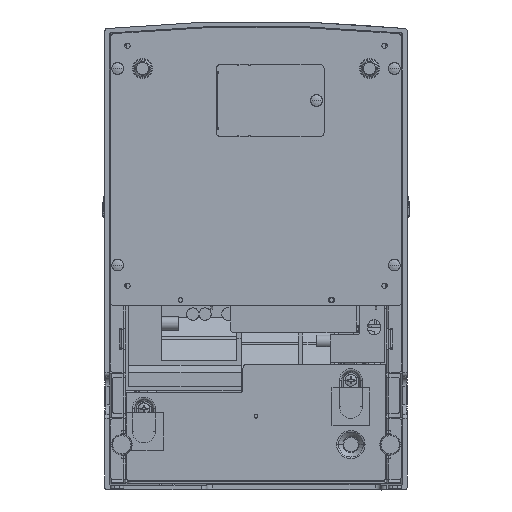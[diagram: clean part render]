
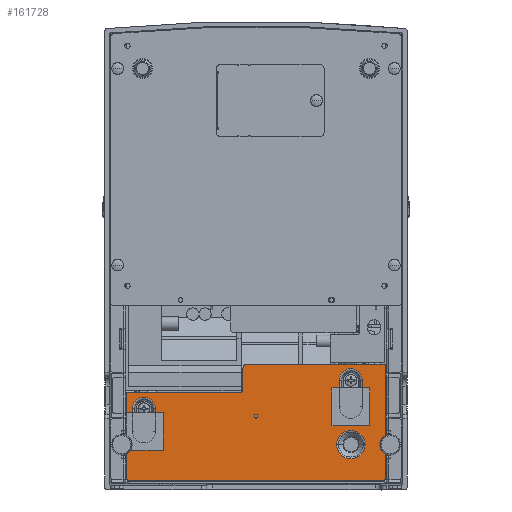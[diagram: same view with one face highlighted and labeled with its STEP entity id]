
A CAD part, front view. The second image highlights one B-rep face of the part: STEP entity #161728.
In plain terms, the highlighted planar face has unit normal (0, -1, 0).
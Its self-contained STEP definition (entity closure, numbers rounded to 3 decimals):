
#151433=CARTESIAN_POINT('',(0.,-56.4,-104.));
#151434=DIRECTION('',(0.,1.,0.));
#151435=DIRECTION('',(-1.,0.,0.));
#151436=AXIS2_PLACEMENT_3D('',#151433,#151434,#151435);
#151438=CARTESIAN_POINT('',(0.,-56.4,-104.));
#151439=DIRECTION('',(0.,1.,0.));
#151440=DIRECTION('',(1.,0.,0.));
#151441=AXIS2_PLACEMENT_3D('',#151438,#151439,#151440);
#151443=CARTESIAN_POINT('',(50.2,-56.4,-119.));
#151444=DIRECTION('',(0.,1.,0.));
#151445=DIRECTION('',(1.,0.,0.));
#151446=AXIS2_PLACEMENT_3D('',#151443,#151444,#151445);
#151448=CARTESIAN_POINT('',(50.2,-56.4,-119.));
#151449=DIRECTION('',(0.,1.,0.));
#151450=DIRECTION('',(-1.,0.,0.));
#151451=AXIS2_PLACEMENT_3D('',#151448,#151449,#151450);
#151453=DIRECTION('',(0.,0.,1.));
#151454=VECTOR('',#151453,14.);
#151455=CARTESIAN_POINT('',(44.098,-56.4,-99.));
#151456=LINE('',#151455,#151454);
#151457=CARTESIAN_POINT('',(50.2,-56.4,-99.));
#151458=DIRECTION('',(0.,1.,0.));
#151459=DIRECTION('',(1.,0.,0.));
#151460=AXIS2_PLACEMENT_3D('',#151457,#151458,#151459);
#151462=DIRECTION('',(0.,0.,-1.));
#151463=VECTOR('',#151462,14.);
#151464=CARTESIAN_POINT('',(56.302,-56.4,-85.));
#151465=LINE('',#151464,#151463);
#151466=CARTESIAN_POINT('',(50.2,-56.4,-85.));
#151467=DIRECTION('',(0.,-1.,0.));
#151468=DIRECTION('',(1.,0.,0.));
#151469=AXIS2_PLACEMENT_3D('',#151466,#151467,#151468);
#151471=CARTESIAN_POINT('',(-59.3,-56.4,-112.));
#151472=DIRECTION('',(0.,1.,0.));
#151473=DIRECTION('',(1.,0.,0.));
#151474=AXIS2_PLACEMENT_3D('',#151471,#151472,#151473);
#151476=DIRECTION('',(0.,0.,-1.));
#151477=VECTOR('',#151476,12.);
#151478=CARTESIAN_POINT('',(-53.198,-56.4,-100.));
#151479=LINE('',#151478,#151477);
#151480=CARTESIAN_POINT('',(-59.3,-56.4,-100.));
#151481=DIRECTION('',(0.,-1.,0.));
#151482=DIRECTION('',(1.,0.,0.));
#151483=AXIS2_PLACEMENT_3D('',#151480,#151481,#151482);
#151485=DIRECTION('',(0.,0.,1.));
#151486=VECTOR('',#151485,12.);
#151487=CARTESIAN_POINT('',(-65.402,-56.4,-112.));
#151488=LINE('',#151487,#151486);
#151718=DIRECTION('',(-1.,0.,0.));
#151719=VECTOR('',#151718,0.2);
#151720=CARTESIAN_POINT('',(68.7,-56.4,-137.5));
#151721=LINE('',#151720,#151719);
#151722=DIRECTION('',(0.,0.,1.));
#151723=VECTOR('',#151722,0.2);
#151724=CARTESIAN_POINT('',(68.,-56.4,-138.2));
#151725=LINE('',#151724,#151723);
#151726=DIRECTION('',(-1.,0.,0.));
#151727=VECTOR('',#151726,136.);
#151728=CARTESIAN_POINT('',(68.,-56.4,-138.2));
#151729=LINE('',#151728,#151727);
#151730=DIRECTION('',(0.,0.,1.));
#151731=VECTOR('',#151730,0.2);
#151732=CARTESIAN_POINT('',(-68.,-56.4,-138.2));
#151733=LINE('',#151732,#151731);
#151734=DIRECTION('',(1.,0.,0.));
#151735=VECTOR('',#151734,0.2);
#151736=CARTESIAN_POINT('',(-68.7,-56.4,-137.5));
#151737=LINE('',#151736,#151735);
#151738=DIRECTION('',(0.,0.,1.));
#151739=VECTOR('',#151738,46.);
#151740=CARTESIAN_POINT('',(-68.7,-56.4,-137.5));
#151741=LINE('',#151740,#151739);
#151742=DIRECTION('',(1.,0.,0.));
#151743=VECTOR('',#151742,59.8);
#151744=CARTESIAN_POINT('',(-68.7,-56.4,-91.5));
#151745=LINE('',#151744,#151743);
#151746=DIRECTION('',(0.,0.,-1.));
#151747=VECTOR('',#151746,11.);
#151748=CARTESIAN_POINT('',(-6.9,-56.4,-78.5));
#151749=LINE('',#151748,#151747);
#151750=DIRECTION('',(1.,0.,0.));
#151751=VECTOR('',#151750,73.6);
#151752=CARTESIAN_POINT('',(-4.9,-56.4,-76.5));
#151753=LINE('',#151752,#151751);
#151754=DIRECTION('',(0.,0.,-1.));
#151755=VECTOR('',#151754,61.);
#151756=CARTESIAN_POINT('',(68.7,-56.4,-76.5));
#151757=LINE('',#151756,#151755);
#155933=CARTESIAN_POINT('',(-4.9,-56.4,-78.5));
#155934=DIRECTION('',(0.,-1.,0.));
#155935=DIRECTION('',(0.,0.,1.));
#155936=AXIS2_PLACEMENT_3D('',#155933,#155934,#155935);
#155960=CARTESIAN_POINT('',(-8.9,-56.4,-89.5));
#155961=DIRECTION('',(0.,1.,0.));
#155962=DIRECTION('',(1.,0.,0.));
#155963=AXIS2_PLACEMENT_3D('',#155960,#155961,#155962);
#156122=CARTESIAN_POINT('',(68.5,-56.4,-138.));
#156123=DIRECTION('',(0.,1.,0.));
#156124=DIRECTION('',(-1.,0.,0.));
#156125=AXIS2_PLACEMENT_3D('',#156122,#156123,#156124);
#156140=CARTESIAN_POINT('',(-68.5,-56.4,-138.));
#156141=DIRECTION('',(0.,1.,0.));
#156142=DIRECTION('',(0.,0.,1.));
#156143=AXIS2_PLACEMENT_3D('',#156140,#156141,#156142);
#159090=CARTESIAN_POINT('',(68.7,-56.4,-137.5));
#159092=VERTEX_POINT('',#159090);
#159102=CARTESIAN_POINT('',(-68.7,-56.4,-137.5));
#159104=VERTEX_POINT('',#159102);
#159137=CARTESIAN_POINT('',(68.,-56.4,-138.2));
#159138=VERTEX_POINT('',#159137);
#159139=CARTESIAN_POINT('',(-68.,-56.4,-138.2));
#159140=VERTEX_POINT('',#159139);
#159250=CARTESIAN_POINT('',(-68.7,-56.4,-91.5));
#159252=VERTEX_POINT('',#159250);
#159259=CARTESIAN_POINT('',(68.7,-56.4,-76.5));
#159260=VERTEX_POINT('',#159259);
#160061=CARTESIAN_POINT('',(-53.198,-56.4,-112.));
#160062=CARTESIAN_POINT('',(-65.402,-56.4,-112.));
#160063=VERTEX_POINT('',#160061);
#160064=VERTEX_POINT('',#160062);
#160122=CARTESIAN_POINT('',(-8.9,-56.4,-91.5));
#160124=VERTEX_POINT('',#160122);
#160126=CARTESIAN_POINT('',(-6.9,-56.4,-89.5));
#160128=VERTEX_POINT('',#160126);
#160129=CARTESIAN_POINT('',(-4.9,-56.4,-76.5));
#160131=VERTEX_POINT('',#160129);
#160133=CARTESIAN_POINT('',(-6.9,-56.4,-78.5));
#160134=VERTEX_POINT('',#160133);
#160218=CARTESIAN_POINT('',(68.5,-56.4,-137.5));
#160220=VERTEX_POINT('',#160218);
#160222=CARTESIAN_POINT('',(68.,-56.4,-138.));
#160224=VERTEX_POINT('',#160222);
#160226=CARTESIAN_POINT('',(-68.,-56.4,-138.));
#160228=VERTEX_POINT('',#160226);
#160230=CARTESIAN_POINT('',(-68.5,-56.4,-137.5));
#160232=VERTEX_POINT('',#160230);
#160605=CARTESIAN_POINT('',(-1.,-56.4,-104.));
#160606=CARTESIAN_POINT('',(1.,-56.4,-104.));
#160607=VERTEX_POINT('',#160605);
#160608=VERTEX_POINT('',#160606);
#161189=CARTESIAN_POINT('',(57.674,-56.4,-119.));
#161190=CARTESIAN_POINT('',(42.726,-56.4,-119.));
#161191=VERTEX_POINT('',#161189);
#161192=VERTEX_POINT('',#161190);
#161253=CARTESIAN_POINT('',(-65.402,-56.4,-100.));
#161254=VERTEX_POINT('',#161253);
#161255=CARTESIAN_POINT('',(-53.198,-56.4,-100.));
#161256=VERTEX_POINT('',#161255);
#161313=CARTESIAN_POINT('',(44.098,-56.4,-99.));
#161314=CARTESIAN_POINT('',(44.098,-56.4,-85.));
#161315=VERTEX_POINT('',#161313);
#161316=VERTEX_POINT('',#161314);
#161317=CARTESIAN_POINT('',(56.302,-56.4,-85.));
#161318=VERTEX_POINT('',#161317);
#161319=CARTESIAN_POINT('',(56.302,-56.4,-99.));
#161320=VERTEX_POINT('',#161319);
#161661=CARTESIAN_POINT('',(0.,-56.4,96.));
#161662=DIRECTION('',(0.,1.,0.));
#161663=DIRECTION('',(1.,0.,0.));
#161664=AXIS2_PLACEMENT_3D('',#161661,#161662,#161663);
#161665=PLANE('',#161664);
#161667=ORIENTED_EDGE('',*,*,#161666,.T.);
#161669=ORIENTED_EDGE('',*,*,#161668,.F.);
#161671=ORIENTED_EDGE('',*,*,#161670,.F.);
#161673=ORIENTED_EDGE('',*,*,#161672,.T.);
#161675=ORIENTED_EDGE('',*,*,#161674,.T.);
#161677=ORIENTED_EDGE('',*,*,#161676,.F.);
#161679=ORIENTED_EDGE('',*,*,#161678,.F.);
#161681=ORIENTED_EDGE('',*,*,#161680,.T.);
#161683=ORIENTED_EDGE('',*,*,#161682,.T.);
#161685=ORIENTED_EDGE('',*,*,#161684,.F.);
#161687=ORIENTED_EDGE('',*,*,#161686,.F.);
#161689=ORIENTED_EDGE('',*,*,#161688,.F.);
#161691=ORIENTED_EDGE('',*,*,#161690,.T.);
#161693=ORIENTED_EDGE('',*,*,#161692,.T.);
#161694=EDGE_LOOP('',(#161667,#161669,#161671,#161673,#161675,#161677,#161679,
#161681,#161683,#161685,#161687,#161689,#161691,#161693));
#161695=FACE_OUTER_BOUND('',#161694,.F.);
#161697=ORIENTED_EDGE('',*,*,#161696,.F.);
#161699=ORIENTED_EDGE('',*,*,#161698,.F.);
#161700=EDGE_LOOP('',(#161697,#161699));
#161701=FACE_BOUND('',#161700,.F.);
#161703=ORIENTED_EDGE('',*,*,#161702,.F.);
#161705=ORIENTED_EDGE('',*,*,#161704,.F.);
#161706=EDGE_LOOP('',(#161703,#161705));
#161707=FACE_BOUND('',#161706,.F.);
#161709=ORIENTED_EDGE('',*,*,#161708,.F.);
#161711=ORIENTED_EDGE('',*,*,#161710,.F.);
#161713=ORIENTED_EDGE('',*,*,#161712,.F.);
#161715=ORIENTED_EDGE('',*,*,#161714,.T.);
#161716=EDGE_LOOP('',(#161709,#161711,#161713,#161715));
#161717=FACE_BOUND('',#161716,.F.);
#161719=ORIENTED_EDGE('',*,*,#161718,.F.);
#161721=ORIENTED_EDGE('',*,*,#161720,.F.);
#161723=ORIENTED_EDGE('',*,*,#161722,.T.);
#161725=ORIENTED_EDGE('',*,*,#161724,.F.);
#161726=EDGE_LOOP('',(#161719,#161721,#161723,#161725));
#161727=FACE_BOUND('',#161726,.F.);
#151437=CIRCLE('',#151436,1.);
#151442=CIRCLE('',#151441,1.);
#151447=CIRCLE('',#151446,7.474);
#151452=CIRCLE('',#151451,7.474);
#151461=CIRCLE('',#151460,6.102);
#151470=CIRCLE('',#151469,6.102);
#151475=CIRCLE('',#151474,6.102);
#151484=CIRCLE('',#151483,6.102);
#155937=CIRCLE('',#155936,2.);
#155964=CIRCLE('',#155963,2.);
#156126=CIRCLE('',#156125,0.5);
#156144=CIRCLE('',#156143,0.5);
#161666=EDGE_CURVE('',#159092,#160220,#151721,.T.);
#161668=EDGE_CURVE('',#160224,#160220,#156126,.T.);
#161670=EDGE_CURVE('',#159138,#160224,#151725,.T.);
#161672=EDGE_CURVE('',#159138,#159140,#151729,.T.);
#161674=EDGE_CURVE('',#159140,#160228,#151733,.T.);
#161676=EDGE_CURVE('',#160232,#160228,#156144,.T.);
#161678=EDGE_CURVE('',#159104,#160232,#151737,.T.);
#161680=EDGE_CURVE('',#159104,#159252,#151741,.T.);
#161682=EDGE_CURVE('',#159252,#160124,#151745,.T.);
#161684=EDGE_CURVE('',#160128,#160124,#155964,.T.);
#161686=EDGE_CURVE('',#160134,#160128,#151749,.T.);
#161688=EDGE_CURVE('',#160131,#160134,#155937,.T.);
#161690=EDGE_CURVE('',#160131,#159260,#151753,.T.);
#161692=EDGE_CURVE('',#159260,#159092,#151757,.T.);
#161696=EDGE_CURVE('',#160607,#160608,#151437,.T.);
#161698=EDGE_CURVE('',#160608,#160607,#151442,.T.);
#161702=EDGE_CURVE('',#161191,#161192,#151447,.T.);
#161704=EDGE_CURVE('',#161192,#161191,#151452,.T.);
#161708=EDGE_CURVE('',#161315,#161316,#151456,.T.);
#161710=EDGE_CURVE('',#161320,#161315,#151461,.T.);
#161712=EDGE_CURVE('',#161318,#161320,#151465,.T.);
#161714=EDGE_CURVE('',#161318,#161316,#151470,.T.);
#161718=EDGE_CURVE('',#160063,#160064,#151475,.T.);
#161720=EDGE_CURVE('',#161256,#160063,#151479,.T.);
#161722=EDGE_CURVE('',#161256,#161254,#151484,.T.);
#161724=EDGE_CURVE('',#160064,#161254,#151488,.T.);
#161728=ADVANCED_FACE('',(#161695,#161701,#161707,#161717,#161727),#161665,.F.);
